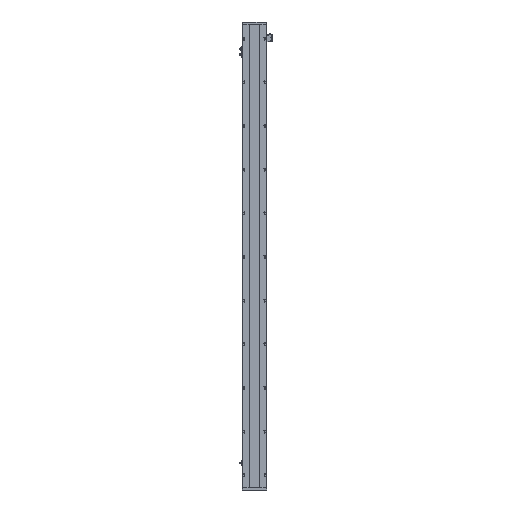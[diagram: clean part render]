
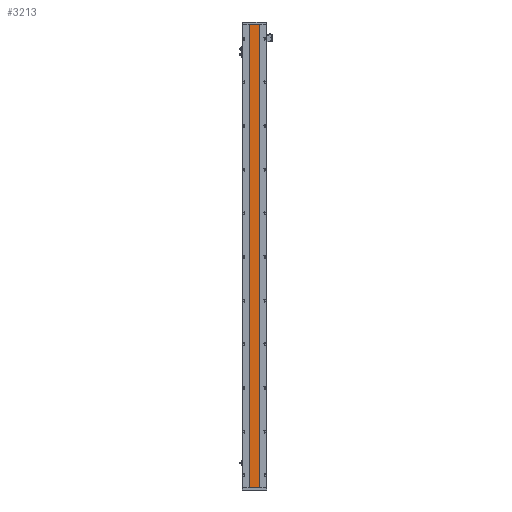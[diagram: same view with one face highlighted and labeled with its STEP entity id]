
A CAD part, front view. The second image highlights one B-rep face of the part: STEP entity #3213.
In plain terms, the highlighted planar face has unit normal (0, -1, 0).
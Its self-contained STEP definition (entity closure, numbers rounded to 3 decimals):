
#149 = AXIS2_PLACEMENT_3D ( 'NONE', #27497, #27400, #1100 ) ;
#1100 = DIRECTION ( 'NONE',  ( -1., 0., 0. ) ) ;
#3213 = ADVANCED_FACE ( 'NONE', ( #4189 ), #10470, .F. ) ;
#4189 = FACE_OUTER_BOUND ( 'NONE', #21639, .T. ) ;
#4285 = EDGE_CURVE ( 'NONE', #15332, #28773, #30362, .T. ) ;
#4436 = DIRECTION ( 'NONE',  ( 0., 0., -1. ) ) ;
#4589 = VECTOR ( 'NONE', #24006, 1000. ) ;
#7179 = VERTEX_POINT ( 'NONE', #30361 ) ;
#8297 = VECTOR ( 'NONE', #4436, 1000. ) ;
#10071 = CARTESIAN_POINT ( 'NONE',  ( 133.07, 115.96, 2296. ) ) ;
#10470 = PLANE ( 'NONE',  #149 ) ;
#12045 = VERTEX_POINT ( 'NONE', #19090 ) ;
#12950 = VECTOR ( 'NONE', #30810, 1000. ) ;
#13324 = LINE ( 'NONE', #18882, #4589 ) ;
#14492 = ORIENTED_EDGE ( 'NONE', *, *, #28712, .F. ) ;
#14623 = ORIENTED_EDGE ( 'NONE', *, *, #28767, .T. ) ;
#15332 = VERTEX_POINT ( 'NONE', #10071 ) ;
#15433 = CARTESIAN_POINT ( 'NONE',  ( 0., 115.96, 2296. ) ) ;
#17019 = ORIENTED_EDGE ( 'NONE', *, *, #4285, .T. ) ;
#18882 = CARTESIAN_POINT ( 'NONE',  ( 0., 115.96, 0. ) ) ;
#19090 = CARTESIAN_POINT ( 'NONE',  ( 183.063, 115.96, 0. ) ) ;
#19147 = EDGE_CURVE ( 'NONE', #15332, #7179, #29981, .T. ) ;
#19199 = CARTESIAN_POINT ( 'NONE',  ( 133.07, 115.96, 0. ) ) ;
#21639 = EDGE_LOOP ( 'NONE', ( #14623, #14492, #24705, #17019 ) ) ;
#21748 = LINE ( 'NONE', #23265, #12950 ) ;
#23265 = CARTESIAN_POINT ( 'NONE',  ( 183.063, 115.96, 2296. ) ) ;
#24006 = DIRECTION ( 'NONE',  ( 1., 0., 0. ) ) ;
#24705 = ORIENTED_EDGE ( 'NONE', *, *, #19147, .F. ) ;
#27400 = DIRECTION ( 'NONE',  ( 0., 1., 0. ) ) ;
#27497 = CARTESIAN_POINT ( 'NONE',  ( 0., 115.96, 2296. ) ) ;
#27785 = DIRECTION ( 'NONE',  ( 1., 0., 0. ) ) ;
#28712 = EDGE_CURVE ( 'NONE', #7179, #12045, #21748, .T. ) ;
#28719 = CARTESIAN_POINT ( 'NONE',  ( 133.07, 115.96, 2296. ) ) ;
#28767 = EDGE_CURVE ( 'NONE', #28773, #12045, #13324, .T. ) ;
#28773 = VERTEX_POINT ( 'NONE', #19199 ) ;
#29981 = LINE ( 'NONE', #15433, #30348 ) ;
#30348 = VECTOR ( 'NONE', #27785, 1000. ) ;
#30361 = CARTESIAN_POINT ( 'NONE',  ( 183.063, 115.96, 2296. ) ) ;
#30362 = LINE ( 'NONE', #28719, #8297 ) ;
#30810 = DIRECTION ( 'NONE',  ( 0., 0., -1. ) ) ;
